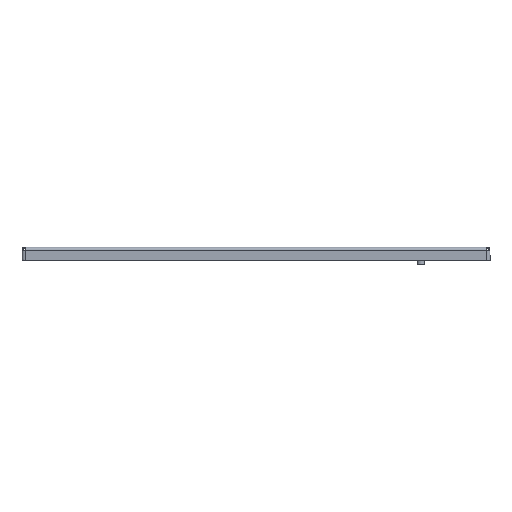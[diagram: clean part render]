
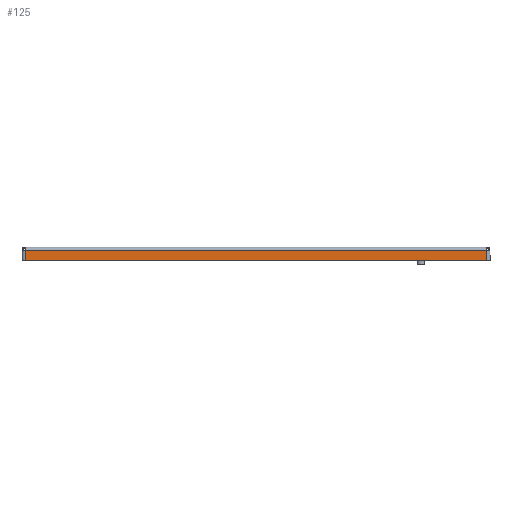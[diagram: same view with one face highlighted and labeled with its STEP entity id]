
A CAD part, left-side view. The second image highlights one B-rep face of the part: STEP entity #125.
In plain terms, the highlighted planar face has unit normal (-1, 0, 0).
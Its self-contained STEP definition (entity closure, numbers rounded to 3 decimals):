
#125=ADVANCED_FACE('',(#675),#677,.F.);
#675=FACE_BOUND('',#676,.T.);
#676=EDGE_LOOP('',(#2094,#2095,#2096,#2097));
#677=PLANE('',#678);
#678=AXIS2_PLACEMENT_3D('',#679,#680,#681);
#679=CARTESIAN_POINT('',(-193.2,0.,0.));
#680=DIRECTION('',(1.,0.,0.));
#681=DIRECTION('',(0.,0.,-1.));
#2094=ORIENTED_EDGE('',*,*,#2783,.F.);
#2095=ORIENTED_EDGE('',*,*,#2785,.F.);
#2096=ORIENTED_EDGE('',*,*,#2786,.F.);
#2097=ORIENTED_EDGE('',*,*,#2787,.F.);
#2783=EDGE_CURVE('',#3293,#3286,#3297,.T.);
#2785=EDGE_CURVE('',#3299,#3293,#3300,.T.);
#2786=EDGE_CURVE('',#3301,#3299,#3302,.T.);
#2787=EDGE_CURVE('',#3286,#3301,#3303,.T.);
#3286=VERTEX_POINT('',#4375);
#3293=VERTEX_POINT('',#4395);
#3297=LINE('',#4406,#4407);
#3299=VERTEX_POINT('',#4412);
#3300=LINE('',#4413,#4414);
#3301=VERTEX_POINT('',#4416);
#3302=LINE('',#4417,#4418);
#3303=LINE('',#4420,#4421);
#4375=CARTESIAN_POINT('',(-193.2,-245.3,-3.2));
#4395=CARTESIAN_POINT('',(-193.2,245.3,-3.2));
#4406=CARTESIAN_POINT('',(-193.2,245.3,-3.2));
#4407=VECTOR('',#4408,1.);
#4408=DIRECTION('',(0.,-1.,0.));
#4412=CARTESIAN_POINT('',(-193.2,245.3,-14.));
#4413=CARTESIAN_POINT('',(-193.2,245.3,-14.));
#4414=VECTOR('',#4415,1.);
#4415=DIRECTION('',(0.,0.,1.));
#4416=CARTESIAN_POINT('',(-193.2,-245.3,-14.));
#4417=CARTESIAN_POINT('',(-193.2,-245.3,-14.));
#4418=VECTOR('',#4419,1.);
#4419=DIRECTION('',(0.,1.,0.));
#4420=CARTESIAN_POINT('',(-193.2,-245.3,-3.2));
#4421=VECTOR('',#4422,1.);
#4422=DIRECTION('',(0.,0.,-1.));
